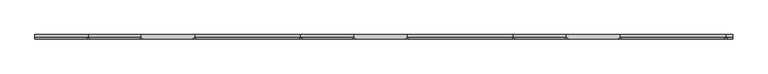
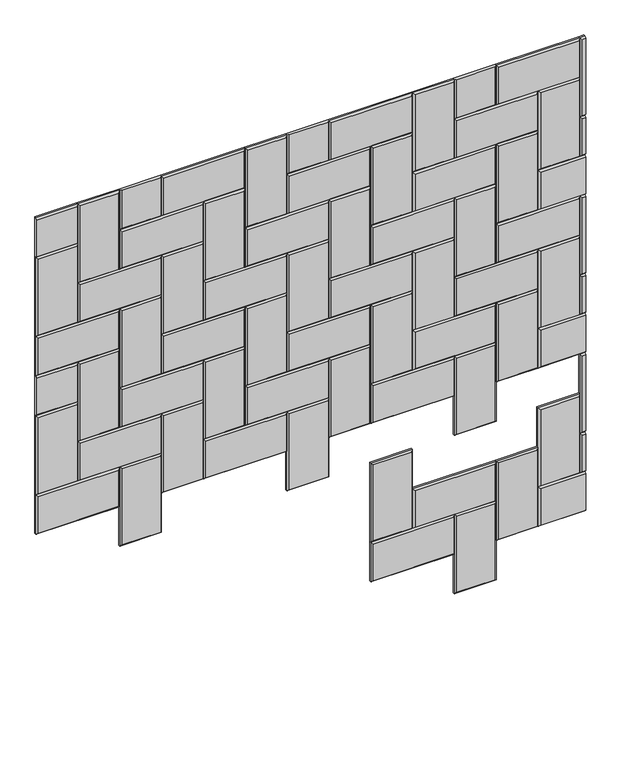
"""IFC4 building model written with IfcOpenShell, lengths in millimetres: proxy geometry, Wall_Wisteria 5.3dm."""

from ifc_helpers import new_model, si_unit, origin, place, context, project, spatial, faceted_brep, source, transform, mapped, element, save


def generic_models_fab0b521(model_context):
    return source(origin(), model_context, "Body", "Brep", [
        faceted_brep([(4813.0096042, 6.0, 2647.6), (4813.0096042, 12.0, 2647.6), (4965.4096042, 12.0, 2647.6), (4965.4096042, 6.0, 2647.6), (4959.4096042, 0.0, 2653.6), (4819.0096042, 0.0, 2653.6), (4813.0096042, 12.0, 2800.0), (4965.4096042, 12.0, 2800.0), (4965.4096042, 6.0, 2800.0), (4813.0096042, 6.0, 2800.0), (4819.0096042, 0.0, 2800.0), (4959.4096042, 0.0, 2800.0)], [[[0, 1, 2, 3]], [[0, 3, 4, 5]], [[6, 7, 2, 1]], [[8, 3, 2, 7]], [[6, 1, 0, 9]], [[10, 5, 4, 11]], [[11, 4, 3, 8]], [[9, 0, 5, 10]], [[6, 9, 10, 11, 8, 7]]]),
        faceted_brep([(5422.6096042, 6.0, 2647.6), (5422.6096042, 12.0, 2647.6), (5575.0096042, 12.0, 2647.6), (5575.0096042, 6.0, 2647.6), (5569.0096042, 0.0, 2653.6), (5428.6096042, 0.0, 2653.6), (5422.6096042, 12.0, 2800.0), (5575.0096042, 12.0, 2800.0), (5575.0096042, 6.0, 2800.0), (5422.6096042, 6.0, 2800.0), (5428.6096042, 0.0, 2800.0), (5569.0096042, 0.0, 2800.0)], [[[0, 1, 2, 3]], [[0, 3, 4, 5]], [[6, 7, 2, 1]], [[8, 3, 2, 7]], [[6, 1, 0, 9]], [[10, 5, 4, 11]], [[11, 4, 3, 8]], [[9, 0, 5, 10]], [[6, 9, 10, 11, 8, 7]]]),
        faceted_brep([(6032.2096042, 6.0, 2647.6), (6032.2096042, 12.0, 2647.6), (6184.6096042, 12.0, 2647.6), (6184.6096042, 6.0, 2647.6), (6178.6096042, 0.0, 2653.6), (6038.2096042, 0.0, 2653.6), (6032.2096042, 12.0, 2800.0), (6184.6096042, 12.0, 2800.0), (6184.6096042, 6.0, 2800.0), (6032.2096042, 6.0, 2800.0), (6038.2096042, 0.0, 2800.0), (6178.6096042, 0.0, 2800.0)], [[[0, 1, 2, 3]], [[0, 3, 4, 5]], [[6, 7, 2, 1]], [[8, 3, 2, 7]], [[6, 1, 0, 9]], [[10, 5, 4, 11]], [[11, 4, 3, 8]], [[9, 0, 5, 10]], [[6, 9, 10, 11, 8, 7]]]),
        faceted_brep([(6508.2096042, 12.0, 2342.8), (6489.4096042, 12.0, 2342.8), (6489.4096042, 12.0, 2495.2), (6508.2096042, 12.0, 2495.2), (6508.2096042, 6.0, 2495.2), (6489.4096042, 6.0, 2495.2), (6489.4096042, 6.0, 2342.8), (6508.2096042, 6.0, 2342.8), (6508.2096042, 0.0, 2348.8), (6508.2096042, 0.0, 2489.2), (6495.4096042, 0.0, 2489.2), (6495.4096042, 0.0, 2348.8)], [[[0, 1, 2, 3]], [[4, 3, 2, 5]], [[5, 2, 1, 6]], [[0, 7, 6, 1]], [[8, 9, 10, 11]], [[9, 4, 5, 10]], [[5, 6, 11, 10]], [[7, 8, 11, 6]], [[0, 3, 4, 9, 8, 7]]]),
        faceted_brep([(6337.0096042, 12.0, 2342.8), (6337.0096042, 12.0, 2647.6), (6489.4096042, 12.0, 2647.6), (6489.4096042, 12.0, 2342.8), (6337.0096042, 6.0, 2342.8), (6489.4096042, 6.0, 2342.8), (6489.4096042, 6.0, 2647.6), (6337.0096042, 6.0, 2647.6), (6483.4096042, 0.0, 2641.6), (6343.0096042, 0.0, 2641.6), (6343.0096042, 0.0, 2348.8), (6483.4096042, 0.0, 2348.8)], [[[0, 1, 2, 3]], [[4, 0, 3, 5]], [[5, 3, 2, 6]], [[6, 2, 1, 7]], [[7, 1, 0, 4]], [[8, 9, 10, 11]], [[4, 5, 11, 10]], [[5, 6, 8, 11]], [[6, 7, 9, 8]], [[7, 4, 10, 9]]]),
        faceted_brep([(6508.2096042, 12.0, 2190.4), (6337.0096042, 12.0, 2190.4), (6337.0096042, 12.0, 2342.8), (6508.2096042, 12.0, 2342.8), (6508.2096042, 6.0, 2342.8), (6337.0096042, 6.0, 2342.8), (6337.0096042, 6.0, 2190.4), (6508.2096042, 6.0, 2190.4), (6508.2096042, 0.0, 2196.4), (6508.2096042, 0.0, 2336.8), (6343.0096042, 0.0, 2336.8), (6343.0096042, 0.0, 2196.4)], [[[0, 1, 2, 3]], [[4, 3, 2, 5]], [[5, 2, 1, 6]], [[0, 7, 6, 1]], [[8, 9, 10, 11]], [[9, 4, 5, 10]], [[5, 6, 11, 10]], [[7, 8, 11, 6]], [[0, 3, 4, 9, 8, 7]]]),
        faceted_brep([(6184.6096042, 12.0, 2190.4), (6184.6096042, 12.0, 2495.2), (6337.0096042, 12.0, 2495.2), (6337.0096042, 12.0, 2190.4), (6184.6096042, 6.0, 2190.4), (6337.0096042, 6.0, 2190.4), (6337.0096042, 6.0, 2495.2), (6184.6096042, 6.0, 2495.2), (6331.0096042, 0.0, 2489.2), (6190.6096042, 0.0, 2489.2), (6190.6096042, 0.0, 2196.4), (6331.0096042, 0.0, 2196.4)], [[[0, 1, 2, 3]], [[4, 0, 3, 5]], [[5, 3, 2, 6]], [[6, 2, 1, 7]], [[7, 1, 0, 4]], [[8, 9, 10, 11]], [[4, 5, 11, 10]], [[5, 6, 8, 11]], [[6, 7, 9, 8]], [[7, 4, 10, 9]]]),
        faceted_brep([(6184.6096042, 12.0, 2342.8), (5879.8096042, 12.0, 2342.8), (5879.8096042, 12.0, 2495.2), (6184.6096042, 12.0, 2495.2), (6184.6096042, 6.0, 2342.8), (6184.6096042, 6.0, 2495.2), (5879.8096042, 6.0, 2495.2), (5879.8096042, 6.0, 2342.8), (5885.8096042, 0.0, 2489.2), (5885.8096042, 0.0, 2348.8), (6178.6096042, 0.0, 2348.8), (6178.6096042, 0.0, 2489.2)], [[[0, 1, 2, 3]], [[4, 0, 3, 5]], [[5, 3, 2, 6]], [[6, 2, 1, 7]], [[7, 1, 0, 4]], [[8, 9, 10, 11]], [[4, 5, 11, 10]], [[5, 6, 8, 11]], [[6, 7, 9, 8]], [[7, 4, 10, 9]]]),
        faceted_brep([(6032.2096042, 12.0, 2038.0), (6032.2096042, 12.0, 2342.8), (6184.6096042, 12.0, 2342.8), (6184.6096042, 12.0, 2038.0), (6032.2096042, 6.0, 2038.0), (6184.6096042, 6.0, 2038.0), (6184.6096042, 6.0, 2342.8), (6032.2096042, 6.0, 2342.8), (6178.6096042, 0.0, 2336.8), (6038.2096042, 0.0, 2336.8), (6038.2096042, 0.0, 2044.0), (6178.6096042, 0.0, 2044.0)], [[[0, 1, 2, 3]], [[4, 0, 3, 5]], [[5, 3, 2, 6]], [[6, 2, 1, 7]], [[7, 1, 0, 4]], [[8, 9, 10, 11]], [[4, 5, 11, 10]], [[5, 6, 8, 11]], [[6, 7, 9, 8]], [[7, 4, 10, 9]]]),
        faceted_brep([(5727.4096042, 12.0, 2342.8), (5727.4096042, 12.0, 2647.6), (5879.8096042, 12.0, 2647.6), (5879.8096042, 12.0, 2342.8), (5727.4096042, 6.0, 2342.8), (5879.8096042, 6.0, 2342.8), (5879.8096042, 6.0, 2647.6), (5727.4096042, 6.0, 2647.6), (5873.8096042, 0.0, 2641.6), (5733.4096042, 0.0, 2641.6), (5733.4096042, 0.0, 2348.8), (5873.8096042, 0.0, 2348.8)], [[[0, 1, 2, 3]], [[4, 0, 3, 5]], [[5, 3, 2, 6]], [[6, 2, 1, 7]], [[7, 1, 0, 4]], [[8, 9, 10, 11]], [[4, 5, 11, 10]], [[5, 6, 8, 11]], [[6, 7, 9, 8]], [[7, 4, 10, 9]]]),
        faceted_brep([(6032.2096042, 12.0, 2190.4), (5727.4096042, 12.0, 2190.4), (5727.4096042, 12.0, 2342.8), (6032.2096042, 12.0, 2342.8), (6032.2096042, 6.0, 2190.4), (6032.2096042, 6.0, 2342.8), (5727.4096042, 6.0, 2342.8), (5727.4096042, 6.0, 2190.4), (5733.4096042, 0.0, 2336.8), (5733.4096042, 0.0, 2196.4), (6026.2096042, 0.0, 2196.4), (6026.2096042, 0.0, 2336.8)], [[[0, 1, 2, 3]], [[4, 0, 3, 5]], [[5, 3, 2, 6]], [[6, 2, 1, 7]], [[7, 1, 0, 4]], [[8, 9, 10, 11]], [[4, 5, 11, 10]], [[5, 6, 8, 11]], [[6, 7, 9, 8]], [[7, 4, 10, 9]]]),
        faceted_brep([(6508.2096042, 12.0, 2495.2), (6489.4096042, 12.0, 2495.2), (6489.4096042, 12.0, 2800.0), (6508.2096042, 12.0, 2800.0), (6508.2096042, 6.0, 2495.2), (6489.4096042, 6.0, 2495.2), (6489.4096042, 6.0, 2800.0), (6508.2096042, 0.0, 2501.2), (6508.2096042, 0.0, 2794.0), (6495.4096042, 0.0, 2794.0), (6495.4096042, 0.0, 2501.2), (6508.2096042, 6.0, 2800.0)], [[[0, 1, 2, 3]], [[0, 4, 5, 1]], [[6, 2, 1, 5]], [[7, 8, 9, 10]], [[4, 7, 10, 5]], [[8, 11, 6, 9]], [[6, 5, 10, 9]], [[3, 2, 6, 11]], [[0, 3, 11, 8, 7, 4]]]),
        faceted_brep([(6489.4096042, 12.0, 2647.6), (6184.6096042, 12.0, 2647.6), (6184.6096042, 12.0, 2800.0), (6489.4096042, 12.0, 2800.0), (6489.4096042, 6.0, 2647.6), (6489.4096042, 6.0, 2800.0), (6184.6096042, 6.0, 2800.0), (6184.6096042, 6.0, 2647.6), (6190.6096042, 0.0, 2794.0), (6190.6096042, 0.0, 2653.6), (6483.4096042, 0.0, 2653.6), (6483.4096042, 0.0, 2794.0)], [[[0, 1, 2, 3]], [[4, 0, 3, 5]], [[6, 2, 1, 7]], [[7, 1, 0, 4]], [[8, 9, 10, 11]], [[4, 5, 11, 10]], [[5, 6, 8, 11]], [[6, 7, 9, 8]], [[7, 4, 10, 9]], [[3, 2, 6, 5]]]),
        faceted_brep([(6337.0096042, 12.0, 2495.2), (6032.2096042, 12.0, 2495.2), (6032.2096042, 12.0, 2647.6), (6337.0096042, 12.0, 2647.6), (6337.0096042, 6.0, 2495.2), (6337.0096042, 6.0, 2647.6), (6032.2096042, 6.0, 2647.6), (6032.2096042, 6.0, 2495.2), (6038.2096042, 0.0, 2641.6), (6038.2096042, 0.0, 2501.2), (6331.0096042, 0.0, 2501.2), (6331.0096042, 0.0, 2641.6)], [[[0, 1, 2, 3]], [[4, 0, 3, 5]], [[5, 3, 2, 6]], [[6, 2, 1, 7]], [[7, 1, 0, 4]], [[8, 9, 10, 11]], [[4, 5, 11, 10]], [[5, 6, 8, 11]], [[6, 7, 9, 8]], [[7, 4, 10, 9]]]),
        faceted_brep([(5879.8096042, 12.0, 2495.2), (5879.8096042, 12.0, 2800.0), (6032.2096042, 12.0, 2800.0), (6032.2096042, 12.0, 2495.2), (5879.8096042, 6.0, 2495.2), (6032.2096042, 6.0, 2495.2), (6032.2096042, 6.0, 2800.0), (5879.8096042, 6.0, 2800.0), (6026.2096042, 0.0, 2794.0), (5885.8096042, 0.0, 2794.0), (5885.8096042, 0.0, 2501.2), (6026.2096042, 0.0, 2501.2)], [[[0, 1, 2, 3]], [[4, 0, 3, 5]], [[5, 3, 2, 6]], [[7, 1, 0, 4]], [[8, 9, 10, 11]], [[4, 5, 11, 10]], [[5, 6, 8, 11]], [[6, 7, 9, 8]], [[7, 4, 10, 9]], [[2, 1, 7, 6]]]),
        faceted_brep([(5879.8096042, 12.0, 2647.6), (5575.0096042, 12.0, 2647.6), (5575.0096042, 12.0, 2800.0), (5879.8096042, 12.0, 2800.0), (5879.8096042, 6.0, 2647.6), (5879.8096042, 6.0, 2800.0), (5575.0096042, 6.0, 2800.0), (5575.0096042, 6.0, 2647.6), (5581.0096042, 0.0, 2794.0), (5581.0096042, 0.0, 2653.6), (5873.8096042, 0.0, 2653.6), (5873.8096042, 0.0, 2794.0)], [[[0, 1, 2, 3]], [[4, 0, 3, 5]], [[6, 2, 1, 7]], [[7, 1, 0, 4]], [[8, 9, 10, 11]], [[4, 5, 11, 10]], [[5, 6, 8, 11]], [[6, 7, 9, 8]], [[7, 4, 10, 9]], [[3, 2, 6, 5]]]),
        faceted_brep([(5727.4096042, 12.0, 2495.2), (5422.6096042, 12.0, 2495.2), (5422.6096042, 12.0, 2647.6), (5727.4096042, 12.0, 2647.6), (5727.4096042, 6.0, 2495.2), (5727.4096042, 6.0, 2647.6), (5422.6096042, 6.0, 2647.6), (5422.6096042, 6.0, 2495.2), (5428.6096042, 0.0, 2641.6), (5428.6096042, 0.0, 2501.2), (5721.4096042, 0.0, 2501.2), (5721.4096042, 0.0, 2641.6)], [[[0, 1, 2, 3]], [[4, 0, 3, 5]], [[5, 3, 2, 6]], [[6, 2, 1, 7]], [[7, 1, 0, 4]], [[8, 9, 10, 11]], [[4, 5, 11, 10]], [[5, 6, 8, 11]], [[6, 7, 9, 8]], [[7, 4, 10, 9]]]),
        faceted_brep([(4508.2096042, 12.0, 2800.0), (4660.6096042, 12.0, 2800.0), (4660.6096042, 12.0, 2647.6), (4508.2096042, 12.0, 2647.6), (4660.6096042, 6.0, 2647.6), (4660.6096042, 6.0, 2800.0), (4508.2096042, 6.0, 2647.6), (4508.2096042, 0.0, 2794.0), (4508.2096042, 0.0, 2653.6), (4654.6096042, 0.0, 2653.6), (4654.6096042, 0.0, 2794.0), (4508.2096042, 6.0, 2800.0)], [[[0, 1, 2, 3]], [[4, 2, 1, 5]], [[6, 3, 2, 4]], [[7, 8, 9, 10]], [[4, 5, 10, 9]], [[11, 7, 10, 5]], [[8, 6, 4, 9]], [[1, 0, 11, 5]], [[0, 3, 6, 8, 7, 11]]]),
        faceted_brep([(5575.0096042, 12.0, 2190.4), (5575.0096042, 12.0, 2495.2), (5727.4096042, 12.0, 2495.2), (5727.4096042, 12.0, 2190.4), (5575.0096042, 6.0, 2190.4), (5727.4096042, 6.0, 2190.4), (5727.4096042, 6.0, 2495.2), (5575.0096042, 6.0, 2495.2), (5721.4096042, 0.0, 2489.2), (5581.0096042, 0.0, 2489.2), (5581.0096042, 0.0, 2196.4), (5721.4096042, 0.0, 2196.4)], [[[0, 1, 2, 3]], [[4, 0, 3, 5]], [[5, 3, 2, 6]], [[6, 2, 1, 7]], [[7, 1, 0, 4]], [[8, 9, 10, 11]], [[4, 5, 11, 10]], [[5, 6, 8, 11]], [[6, 7, 9, 8]], [[7, 4, 10, 9]]]),
        faceted_brep([(5270.2096042, 12.0, 2495.2), (5270.2096042, 12.0, 2800.0), (5422.6096042, 12.0, 2800.0), (5422.6096042, 12.0, 2495.2), (5270.2096042, 6.0, 2495.2), (5422.6096042, 6.0, 2495.2), (5422.6096042, 6.0, 2800.0), (5270.2096042, 6.0, 2800.0), (5416.6096042, 0.0, 2794.0), (5276.2096042, 0.0, 2794.0), (5276.2096042, 0.0, 2501.2), (5416.6096042, 0.0, 2501.2)], [[[0, 1, 2, 3]], [[4, 0, 3, 5]], [[5, 3, 2, 6]], [[7, 1, 0, 4]], [[8, 9, 10, 11]], [[4, 5, 11, 10]], [[5, 6, 8, 11]], [[6, 7, 9, 8]], [[7, 4, 10, 9]], [[2, 1, 7, 6]]]),
        faceted_brep([(5575.0096042, 12.0, 2342.8), (5270.2096042, 12.0, 2342.8), (5270.2096042, 12.0, 2495.2), (5575.0096042, 12.0, 2495.2), (5575.0096042, 6.0, 2342.8), (5575.0096042, 6.0, 2495.2), (5270.2096042, 6.0, 2495.2), (5270.2096042, 6.0, 2342.8), (5276.2096042, 0.0, 2489.2), (5276.2096042, 0.0, 2348.8), (5569.0096042, 0.0, 2348.8), (5569.0096042, 0.0, 2489.2)], [[[0, 1, 2, 3]], [[4, 0, 3, 5]], [[5, 3, 2, 6]], [[6, 2, 1, 7]], [[7, 1, 0, 4]], [[8, 9, 10, 11]], [[4, 5, 11, 10]], [[5, 6, 8, 11]], [[6, 7, 9, 8]], [[7, 4, 10, 9]]]),
        faceted_brep([(5422.6096042, 12.0, 2038.0), (5422.6096042, 12.0, 2342.8), (5575.0096042, 12.0, 2342.8), (5575.0096042, 12.0, 2038.0), (5422.6096042, 6.0, 2038.0), (5575.0096042, 6.0, 2038.0), (5575.0096042, 6.0, 2342.8), (5422.6096042, 6.0, 2342.8), (5569.0096042, 0.0, 2336.8), (5428.6096042, 0.0, 2336.8), (5428.6096042, 0.0, 2044.0), (5569.0096042, 0.0, 2044.0)], [[[0, 1, 2, 3]], [[4, 0, 3, 5]], [[5, 3, 2, 6]], [[6, 2, 1, 7]], [[7, 1, 0, 4]], [[8, 9, 10, 11]], [[4, 5, 11, 10]], [[5, 6, 8, 11]], [[6, 7, 9, 8]], [[7, 4, 10, 9]]]),
        faceted_brep([(4660.6096042, 12.0, 2495.2), (4660.6096042, 12.0, 2800.0), (4813.0096042, 12.0, 2800.0), (4813.0096042, 12.0, 2495.2), (4660.6096042, 6.0, 2495.2), (4813.0096042, 6.0, 2495.2), (4813.0096042, 6.0, 2800.0), (4660.6096042, 6.0, 2800.0), (4807.0096042, 0.0, 2794.0), (4666.6096042, 0.0, 2794.0), (4666.6096042, 0.0, 2501.2), (4807.0096042, 0.0, 2501.2)], [[[0, 1, 2, 3]], [[4, 0, 3, 5]], [[5, 3, 2, 6]], [[7, 1, 0, 4]], [[8, 9, 10, 11]], [[4, 5, 11, 10]], [[5, 6, 8, 11]], [[6, 7, 9, 8]], [[7, 4, 10, 9]], [[2, 1, 7, 6]]]),
        faceted_brep([(4965.4096042, 12.0, 2342.8), (4660.6096042, 12.0, 2342.8), (4660.6096042, 12.0, 2495.2), (4965.4096042, 12.0, 2495.2), (4965.4096042, 6.0, 2342.8), (4965.4096042, 6.0, 2495.2), (4660.6096042, 6.0, 2495.2), (4660.6096042, 6.0, 2342.8), (4666.6096042, 0.0, 2489.2), (4666.6096042, 0.0, 2348.8), (4959.4096042, 0.0, 2348.8), (4959.4096042, 0.0, 2489.2)], [[[0, 1, 2, 3]], [[4, 0, 3, 5]], [[5, 3, 2, 6]], [[6, 2, 1, 7]], [[7, 1, 0, 4]], [[8, 9, 10, 11]], [[4, 5, 11, 10]], [[5, 6, 8, 11]], [[6, 7, 9, 8]], [[7, 4, 10, 9]]]),
        faceted_brep([(4813.0096042, 12.0, 2038.0), (4813.0096042, 12.0, 2342.8), (4965.4096042, 12.0, 2342.8), (4965.4096042, 12.0, 2038.0), (4813.0096042, 6.0, 2038.0), (4965.4096042, 6.0, 2038.0), (4965.4096042, 6.0, 2342.8), (4813.0096042, 6.0, 2342.8), (4959.4096042, 0.0, 2336.8), (4819.0096042, 0.0, 2336.8), (4819.0096042, 0.0, 2044.0), (4959.4096042, 0.0, 2044.0)], [[[0, 1, 2, 3]], [[4, 0, 3, 5]], [[5, 3, 2, 6]], [[6, 2, 1, 7]], [[7, 1, 0, 4]], [[8, 9, 10, 11]], [[4, 5, 11, 10]], [[5, 6, 8, 11]], [[6, 7, 9, 8]], [[7, 4, 10, 9]]]),
        faceted_brep([(4508.2096042, 12.0, 2342.8), (4508.2096042, 12.0, 2647.6), (4660.6096042, 12.0, 2647.6), (4660.6096042, 12.0, 2342.8), (4508.2096042, 6.0, 2342.8), (4660.6096042, 6.0, 2342.8), (4660.6096042, 6.0, 2647.6), (4508.2096042, 6.0, 2647.6), (4654.6096042, 0.0, 2641.6), (4514.2096042, 0.0, 2641.6), (4514.2096042, 0.0, 2348.8), (4654.6096042, 0.0, 2348.8)], [[[0, 1, 2, 3]], [[4, 0, 3, 5]], [[5, 3, 2, 6]], [[6, 2, 1, 7]], [[8, 9, 10, 11]], [[4, 5, 11, 10]], [[5, 6, 8, 11]], [[6, 7, 9, 8]], [[7, 4, 10, 9]], [[1, 0, 4, 7]]]),
        faceted_brep([(4813.0096042, 12.0, 2190.4), (4508.2096042, 12.0, 2190.4), (4508.2096042, 12.0, 2342.8), (4813.0096042, 12.0, 2342.8), (4813.0096042, 6.0, 2190.4), (4813.0096042, 6.0, 2342.8), (4508.2096042, 6.0, 2342.8), (4508.2096042, 6.0, 2190.4), (4514.2096042, 0.0, 2336.8), (4514.2096042, 0.0, 2196.4), (4807.0096042, 0.0, 2196.4), (4807.0096042, 0.0, 2336.8)], [[[0, 1, 2, 3]], [[4, 0, 3, 5]], [[5, 3, 2, 6]], [[7, 1, 0, 4]], [[8, 9, 10, 11]], [[4, 5, 11, 10]], [[5, 6, 8, 11]], [[6, 7, 9, 8]], [[7, 4, 10, 9]], [[2, 1, 7, 6]]]),
        faceted_brep([(5270.2096042, 12.0, 2647.6), (4965.4096042, 12.0, 2647.6), (4965.4096042, 12.0, 2800.0), (5270.2096042, 12.0, 2800.0), (5270.2096042, 6.0, 2647.6), (5270.2096042, 6.0, 2800.0), (4965.4096042, 6.0, 2800.0), (4965.4096042, 6.0, 2647.6), (4971.4096042, 0.0, 2794.0), (4971.4096042, 0.0, 2653.6), (5264.2096042, 0.0, 2653.6), (5264.2096042, 0.0, 2794.0)], [[[0, 1, 2, 3]], [[4, 0, 3, 5]], [[6, 2, 1, 7]], [[7, 1, 0, 4]], [[8, 9, 10, 11]], [[4, 5, 11, 10]], [[5, 6, 8, 11]], [[6, 7, 9, 8]], [[7, 4, 10, 9]], [[3, 2, 6, 5]]]),
        faceted_brep([(5117.8096042, 12.0, 2342.8), (5117.8096042, 12.0, 2647.6), (5270.2096042, 12.0, 2647.6), (5270.2096042, 12.0, 2342.8), (5117.8096042, 6.0, 2342.8), (5270.2096042, 6.0, 2342.8), (5270.2096042, 6.0, 2647.6), (5117.8096042, 6.0, 2647.6), (5264.2096042, 0.0, 2641.6), (5123.8096042, 0.0, 2641.6), (5123.8096042, 0.0, 2348.8), (5264.2096042, 0.0, 2348.8)], [[[0, 1, 2, 3]], [[4, 0, 3, 5]], [[5, 3, 2, 6]], [[6, 2, 1, 7]], [[7, 1, 0, 4]], [[8, 9, 10, 11]], [[4, 5, 11, 10]], [[5, 6, 8, 11]], [[6, 7, 9, 8]], [[7, 4, 10, 9]]]),
        faceted_brep([(5422.6096042, 12.0, 2190.4), (5117.8096042, 12.0, 2190.4), (5117.8096042, 12.0, 2342.8), (5422.6096042, 12.0, 2342.8), (5422.6096042, 6.0, 2190.4), (5422.6096042, 6.0, 2342.8), (5117.8096042, 6.0, 2342.8), (5117.8096042, 6.0, 2190.4), (5123.8096042, 0.0, 2336.8), (5123.8096042, 0.0, 2196.4), (5416.6096042, 0.0, 2196.4), (5416.6096042, 0.0, 2336.8)], [[[0, 1, 2, 3]], [[4, 0, 3, 5]], [[5, 3, 2, 6]], [[6, 2, 1, 7]], [[7, 1, 0, 4]], [[8, 9, 10, 11]], [[4, 5, 11, 10]], [[5, 6, 8, 11]], [[6, 7, 9, 8]], [[7, 4, 10, 9]]]),
        faceted_brep([(5117.8096042, 12.0, 2495.2), (4813.0096042, 12.0, 2495.2), (4813.0096042, 12.0, 2647.6), (5117.8096042, 12.0, 2647.6), (5117.8096042, 6.0, 2495.2), (5117.8096042, 6.0, 2647.6), (4813.0096042, 6.0, 2647.6), (4813.0096042, 6.0, 2495.2), (4819.0096042, 0.0, 2641.6), (4819.0096042, 0.0, 2501.2), (5111.8096042, 0.0, 2501.2), (5111.8096042, 0.0, 2641.6)], [[[0, 1, 2, 3]], [[4, 0, 3, 5]], [[5, 3, 2, 6]], [[6, 2, 1, 7]], [[7, 1, 0, 4]], [[8, 9, 10, 11]], [[4, 5, 11, 10]], [[5, 6, 8, 11]], [[6, 7, 9, 8]], [[7, 4, 10, 9]]]),
        faceted_brep([(4965.4096042, 12.0, 2190.4), (4965.4096042, 12.0, 2495.2), (5117.8096042, 12.0, 2495.2), (5117.8096042, 12.0, 2190.4), (4965.4096042, 6.0, 2190.4), (5117.8096042, 6.0, 2190.4), (5117.8096042, 6.0, 2495.2), (4965.4096042, 6.0, 2495.2), (5111.8096042, 0.0, 2489.2), (4971.4096042, 0.0, 2489.2), (4971.4096042, 0.0, 2196.4), (5111.8096042, 0.0, 2196.4)], [[[0, 1, 2, 3]], [[4, 0, 3, 5]], [[5, 3, 2, 6]], [[6, 2, 1, 7]], [[7, 1, 0, 4]], [[8, 9, 10, 11]], [[4, 5, 11, 10]], [[5, 6, 8, 11]], [[6, 7, 9, 8]], [[7, 4, 10, 9]]]),
        faceted_brep([(6508.2096042, 12.0, 1733.2), (6489.4096042, 12.0, 1733.2), (6489.4096042, 12.0, 1885.6), (6508.2096042, 12.0, 1885.6), (6508.2096042, 6.0, 1885.6), (6489.4096042, 6.0, 1885.6), (6489.4096042, 6.0, 1733.2), (6508.2096042, 6.0, 1733.2), (6508.2096042, 0.0, 1739.2), (6508.2096042, 0.0, 1879.6), (6495.4096042, 0.0, 1879.6), (6495.4096042, 0.0, 1739.2)], [[[0, 1, 2, 3]], [[4, 3, 2, 5]], [[5, 2, 1, 6]], [[0, 7, 6, 1]], [[8, 9, 10, 11]], [[9, 4, 5, 10]], [[5, 6, 11, 10]], [[7, 8, 11, 6]], [[0, 3, 4, 9, 8, 7]]]),
        faceted_brep([(6337.0096042, 12.0, 1733.2), (6337.0096042, 12.0, 2038.0), (6489.4096042, 12.0, 2038.0), (6489.4096042, 12.0, 1733.2), (6337.0096042, 6.0, 1733.2), (6489.4096042, 6.0, 1733.2), (6489.4096042, 6.0, 2038.0), (6337.0096042, 6.0, 2038.0), (6483.4096042, 0.0, 2032.0), (6343.0096042, 0.0, 2032.0), (6343.0096042, 0.0, 1739.2), (6483.4096042, 0.0, 1739.2)], [[[0, 1, 2, 3]], [[4, 0, 3, 5]], [[5, 3, 2, 6]], [[6, 2, 1, 7]], [[7, 1, 0, 4]], [[8, 9, 10, 11]], [[4, 5, 11, 10]], [[5, 6, 8, 11]], [[6, 7, 9, 8]], [[7, 4, 10, 9]]]),
        faceted_brep([(6508.2096042, 12.0, 1580.8), (6337.0096042, 12.0, 1580.8), (6337.0096042, 12.0, 1733.2), (6508.2096042, 12.0, 1733.2), (6508.2096042, 6.0, 1733.2), (6337.0096042, 6.0, 1733.2), (6337.0096042, 6.0, 1580.8), (6508.2096042, 6.0, 1580.8), (6508.2096042, 0.0, 1586.8), (6508.2096042, 0.0, 1727.2), (6343.0096042, 0.0, 1727.2), (6343.0096042, 0.0, 1586.8)], [[[0, 1, 2, 3]], [[4, 3, 2, 5]], [[5, 2, 1, 6]], [[0, 7, 6, 1]], [[8, 9, 10, 11]], [[9, 4, 5, 10]], [[5, 6, 11, 10]], [[7, 8, 11, 6]], [[0, 3, 4, 9, 8, 7]]]),
        faceted_brep([(6184.6096042, 12.0, 1580.8), (6184.6096042, 12.0, 1885.6), (6337.0096042, 12.0, 1885.6), (6337.0096042, 12.0, 1580.8), (6184.6096042, 6.0, 1580.8), (6337.0096042, 6.0, 1580.8), (6337.0096042, 6.0, 1885.6), (6184.6096042, 6.0, 1885.6), (6331.0096042, 0.0, 1879.6), (6190.6096042, 0.0, 1879.6), (6190.6096042, 0.0, 1586.8), (6331.0096042, 0.0, 1586.8)], [[[0, 1, 2, 3]], [[4, 0, 3, 5]], [[5, 3, 2, 6]], [[6, 2, 1, 7]], [[7, 1, 0, 4]], [[8, 9, 10, 11]], [[4, 5, 11, 10]], [[5, 6, 8, 11]], [[6, 7, 9, 8]], [[7, 4, 10, 9]]]),
        faceted_brep([(6184.6096042, 12.0, 1733.2), (5879.8096042, 12.0, 1733.2), (5879.8096042, 12.0, 1885.6), (6184.6096042, 12.0, 1885.6), (6184.6096042, 6.0, 1733.2), (6184.6096042, 6.0, 1885.6), (5879.8096042, 6.0, 1885.6), (5879.8096042, 6.0, 1733.2), (5885.8096042, 0.0, 1879.6), (5885.8096042, 0.0, 1739.2), (6178.6096042, 0.0, 1739.2), (6178.6096042, 0.0, 1879.6)], [[[0, 1, 2, 3]], [[4, 0, 3, 5]], [[5, 3, 2, 6]], [[6, 2, 1, 7]], [[7, 1, 0, 4]], [[8, 9, 10, 11]], [[4, 5, 11, 10]], [[5, 6, 8, 11]], [[6, 7, 9, 8]], [[7, 4, 10, 9]]]),
        faceted_brep([(6032.2096042, 12.0, 1428.4), (6032.2096042, 12.0, 1733.2), (6184.6096042, 12.0, 1733.2), (6184.6096042, 12.0, 1428.4), (6032.2096042, 6.0, 1428.4), (6184.6096042, 6.0, 1428.4), (6184.6096042, 6.0, 1733.2), (6032.2096042, 6.0, 1733.2), (6178.6096042, 0.0, 1727.2), (6038.2096042, 0.0, 1727.2), (6038.2096042, 0.0, 1434.4), (6178.6096042, 0.0, 1434.4)], [[[0, 1, 2, 3]], [[4, 0, 3, 5]], [[5, 3, 2, 6]], [[6, 2, 1, 7]], [[7, 1, 0, 4]], [[8, 9, 10, 11]], [[4, 5, 11, 10]], [[5, 6, 8, 11]], [[6, 7, 9, 8]], [[7, 4, 10, 9]]]),
        faceted_brep([(5727.4096042, 12.0, 1733.2), (5727.4096042, 12.0, 2038.0), (5879.8096042, 12.0, 2038.0), (5879.8096042, 12.0, 1733.2), (5727.4096042, 6.0, 1733.2), (5879.8096042, 6.0, 1733.2), (5879.8096042, 6.0, 2038.0), (5727.4096042, 6.0, 2038.0), (5873.8096042, 0.0, 2032.0), (5733.4096042, 0.0, 2032.0), (5733.4096042, 0.0, 1739.2), (5873.8096042, 0.0, 1739.2)], [[[0, 1, 2, 3]], [[4, 0, 3, 5]], [[5, 3, 2, 6]], [[6, 2, 1, 7]], [[7, 1, 0, 4]], [[8, 9, 10, 11]], [[4, 5, 11, 10]], [[5, 6, 8, 11]], [[6, 7, 9, 8]], [[7, 4, 10, 9]]]),
        faceted_brep([(6032.2096042, 12.0, 1580.8), (5727.4096042, 12.0, 1580.8), (5727.4096042, 12.0, 1733.2), (6032.2096042, 12.0, 1733.2), (6032.2096042, 6.0, 1580.8), (6032.2096042, 6.0, 1733.2), (5727.4096042, 6.0, 1733.2), (5727.4096042, 6.0, 1580.8), (5733.4096042, 0.0, 1727.2), (5733.4096042, 0.0, 1586.8), (6026.2096042, 0.0, 1586.8), (6026.2096042, 0.0, 1727.2)], [[[0, 1, 2, 3]], [[4, 0, 3, 5]], [[5, 3, 2, 6]], [[6, 2, 1, 7]], [[7, 1, 0, 4]], [[8, 9, 10, 11]], [[4, 5, 11, 10]], [[5, 6, 8, 11]], [[6, 7, 9, 8]], [[7, 4, 10, 9]]]),
        faceted_brep([(6508.2096042, 12.0, 1885.6), (6489.4096042, 12.0, 1885.6), (6489.4096042, 12.0, 2190.4), (6508.2096042, 12.0, 2190.4), (6508.2096042, 6.0, 1885.6), (6489.4096042, 6.0, 1885.6), (6508.2096042, 6.0, 2190.4), (6489.4096042, 6.0, 2190.4), (6508.2096042, 0.0, 1891.6), (6508.2096042, 0.0, 2184.4), (6495.4096042, 0.0, 2184.4), (6495.4096042, 0.0, 1891.6)], [[[0, 1, 2, 3]], [[0, 4, 5, 1]], [[6, 3, 2, 7]], [[7, 2, 1, 5]], [[8, 9, 10, 11]], [[4, 8, 11, 5]], [[9, 6, 7, 10]], [[7, 5, 11, 10]], [[0, 3, 6, 9, 8, 4]]]),
        faceted_brep([(6489.4096042, 12.0, 2038.0), (6184.6096042, 12.0, 2038.0), (6184.6096042, 12.0, 2190.4), (6489.4096042, 12.0, 2190.4), (6489.4096042, 6.0, 2038.0), (6489.4096042, 6.0, 2190.4), (6184.6096042, 6.0, 2190.4), (6184.6096042, 6.0, 2038.0), (6190.6096042, 0.0, 2184.4), (6190.6096042, 0.0, 2044.0), (6483.4096042, 0.0, 2044.0), (6483.4096042, 0.0, 2184.4)], [[[0, 1, 2, 3]], [[4, 0, 3, 5]], [[5, 3, 2, 6]], [[6, 2, 1, 7]], [[7, 1, 0, 4]], [[8, 9, 10, 11]], [[4, 5, 11, 10]], [[5, 6, 8, 11]], [[6, 7, 9, 8]], [[7, 4, 10, 9]]]),
        faceted_brep([(6337.0096042, 12.0, 1885.6), (6032.2096042, 12.0, 1885.6), (6032.2096042, 12.0, 2038.0), (6337.0096042, 12.0, 2038.0), (6337.0096042, 6.0, 1885.6), (6337.0096042, 6.0, 2038.0), (6032.2096042, 6.0, 2038.0), (6032.2096042, 6.0, 1885.6), (6038.2096042, 0.0, 2032.0), (6038.2096042, 0.0, 1891.6), (6331.0096042, 0.0, 1891.6), (6331.0096042, 0.0, 2032.0)], [[[0, 1, 2, 3]], [[4, 0, 3, 5]], [[5, 3, 2, 6]], [[6, 2, 1, 7]], [[7, 1, 0, 4]], [[8, 9, 10, 11]], [[4, 5, 11, 10]], [[5, 6, 8, 11]], [[6, 7, 9, 8]], [[7, 4, 10, 9]]]),
        faceted_brep([(5879.8096042, 12.0, 1885.6), (5879.8096042, 12.0, 2190.4), (6032.2096042, 12.0, 2190.4), (6032.2096042, 12.0, 1885.6), (5879.8096042, 6.0, 1885.6), (6032.2096042, 6.0, 1885.6), (6032.2096042, 6.0, 2190.4), (5879.8096042, 6.0, 2190.4), (6026.2096042, 0.0, 2184.4), (5885.8096042, 0.0, 2184.4), (5885.8096042, 0.0, 1891.6), (6026.2096042, 0.0, 1891.6)], [[[0, 1, 2, 3]], [[4, 0, 3, 5]], [[5, 3, 2, 6]], [[6, 2, 1, 7]], [[7, 1, 0, 4]], [[8, 9, 10, 11]], [[4, 5, 11, 10]], [[5, 6, 8, 11]], [[6, 7, 9, 8]], [[7, 4, 10, 9]]]),
        faceted_brep([(5879.8096042, 12.0, 2038.0), (5575.0096042, 12.0, 2038.0), (5575.0096042, 12.0, 2190.4), (5879.8096042, 12.0, 2190.4), (5879.8096042, 6.0, 2038.0), (5879.8096042, 6.0, 2190.4), (5575.0096042, 6.0, 2190.4), (5575.0096042, 6.0, 2038.0), (5581.0096042, 0.0, 2184.4), (5581.0096042, 0.0, 2044.0), (5873.8096042, 0.0, 2044.0), (5873.8096042, 0.0, 2184.4)], [[[0, 1, 2, 3]], [[4, 0, 3, 5]], [[5, 3, 2, 6]], [[6, 2, 1, 7]], [[7, 1, 0, 4]], [[8, 9, 10, 11]], [[4, 5, 11, 10]], [[5, 6, 8, 11]], [[6, 7, 9, 8]], [[7, 4, 10, 9]]]),
        faceted_brep([(5727.4096042, 12.0, 1885.6), (5422.6096042, 12.0, 1885.6), (5422.6096042, 12.0, 2038.0), (5727.4096042, 12.0, 2038.0), (5727.4096042, 6.0, 1885.6), (5727.4096042, 6.0, 2038.0), (5422.6096042, 6.0, 2038.0), (5422.6096042, 6.0, 1885.6), (5428.6096042, 0.0, 2032.0), (5428.6096042, 0.0, 1891.6), (5721.4096042, 0.0, 1891.6), (5721.4096042, 0.0, 2032.0)], [[[0, 1, 2, 3]], [[4, 0, 3, 5]], [[5, 3, 2, 6]], [[6, 2, 1, 7]], [[7, 1, 0, 4]], [[8, 9, 10, 11]], [[4, 5, 11, 10]], [[5, 6, 8, 11]], [[6, 7, 9, 8]], [[7, 4, 10, 9]]]),
        faceted_brep([(4508.2096042, 12.0, 2190.4), (4660.6096042, 12.0, 2190.4), (4660.6096042, 12.0, 2038.0), (4508.2096042, 12.0, 2038.0), (4660.6096042, 6.0, 2038.0), (4660.6096042, 6.0, 2190.4), (4508.2096042, 6.0, 2190.4), (4508.2096042, 6.0, 2038.0), (4508.2096042, 0.0, 2184.4), (4508.2096042, 0.0, 2044.0), (4654.6096042, 0.0, 2044.0), (4654.6096042, 0.0, 2184.4)], [[[0, 1, 2, 3]], [[4, 2, 1, 5]], [[0, 6, 5, 1]], [[7, 3, 2, 4]], [[8, 9, 10, 11]], [[4, 5, 11, 10]], [[6, 8, 11, 5]], [[9, 7, 4, 10]], [[0, 3, 7, 9, 8, 6]]]),
        faceted_brep([(5575.0096042, 12.0, 1580.8), (5575.0096042, 12.0, 1885.6), (5727.4096042, 12.0, 1885.6), (5727.4096042, 12.0, 1580.8), (5575.0096042, 6.0, 1580.8), (5727.4096042, 6.0, 1580.8), (5727.4096042, 6.0, 1885.6), (5575.0096042, 6.0, 1885.6), (5721.4096042, 0.0, 1879.6), (5581.0096042, 0.0, 1879.6), (5581.0096042, 0.0, 1586.8), (5721.4096042, 0.0, 1586.8)], [[[0, 1, 2, 3]], [[4, 0, 3, 5]], [[5, 3, 2, 6]], [[6, 2, 1, 7]], [[7, 1, 0, 4]], [[8, 9, 10, 11]], [[4, 5, 11, 10]], [[5, 6, 8, 11]], [[6, 7, 9, 8]], [[7, 4, 10, 9]]]),
        faceted_brep([(5270.2096042, 12.0, 1885.6), (5270.2096042, 12.0, 2190.4), (5422.6096042, 12.0, 2190.4), (5422.6096042, 12.0, 1885.6), (5270.2096042, 6.0, 1885.6), (5422.6096042, 6.0, 1885.6), (5422.6096042, 6.0, 2190.4), (5270.2096042, 6.0, 2190.4), (5416.6096042, 0.0, 2184.4), (5276.2096042, 0.0, 2184.4), (5276.2096042, 0.0, 1891.6), (5416.6096042, 0.0, 1891.6)], [[[0, 1, 2, 3]], [[4, 0, 3, 5]], [[5, 3, 2, 6]], [[6, 2, 1, 7]], [[7, 1, 0, 4]], [[8, 9, 10, 11]], [[4, 5, 11, 10]], [[5, 6, 8, 11]], [[6, 7, 9, 8]], [[7, 4, 10, 9]]]),
        faceted_brep([(5575.0096042, 12.0, 1733.2), (5270.2096042, 12.0, 1733.2), (5270.2096042, 12.0, 1885.6), (5575.0096042, 12.0, 1885.6), (5575.0096042, 6.0, 1733.2), (5575.0096042, 6.0, 1885.6), (5270.2096042, 6.0, 1885.6), (5270.2096042, 6.0, 1733.2), (5276.2096042, 0.0, 1879.6), (5276.2096042, 0.0, 1739.2), (5569.0096042, 0.0, 1739.2), (5569.0096042, 0.0, 1879.6)], [[[0, 1, 2, 3]], [[4, 0, 3, 5]], [[5, 3, 2, 6]], [[6, 2, 1, 7]], [[7, 1, 0, 4]], [[8, 9, 10, 11]], [[4, 5, 11, 10]], [[5, 6, 8, 11]], [[6, 7, 9, 8]], [[7, 4, 10, 9]]]),
        faceted_brep([(5422.6096042, 12.0, 1428.4), (5422.6096042, 12.0, 1733.2), (5575.0096042, 12.0, 1733.2), (5575.0096042, 12.0, 1428.4), (5422.6096042, 6.0, 1428.4), (5575.0096042, 6.0, 1428.4), (5575.0096042, 6.0, 1733.2), (5422.6096042, 6.0, 1733.2), (5569.0096042, 0.0, 1727.2), (5428.6096042, 0.0, 1727.2), (5428.6096042, 0.0, 1434.4), (5569.0096042, 0.0, 1434.4)], [[[0, 1, 2, 3]], [[4, 0, 3, 5]], [[5, 3, 2, 6]], [[6, 2, 1, 7]], [[7, 1, 0, 4]], [[8, 9, 10, 11]], [[4, 5, 11, 10]], [[5, 6, 8, 11]], [[6, 7, 9, 8]], [[7, 4, 10, 9]]]),
        faceted_brep([(4660.6096042, 12.0, 1885.6), (4660.6096042, 12.0, 2190.4), (4813.0096042, 12.0, 2190.4), (4813.0096042, 12.0, 1885.6), (4660.6096042, 6.0, 1885.6), (4813.0096042, 6.0, 1885.6), (4813.0096042, 6.0, 2190.4), (4660.6096042, 6.0, 2190.4), (4807.0096042, 0.0, 2184.4), (4666.6096042, 0.0, 2184.4), (4666.6096042, 0.0, 1891.6), (4807.0096042, 0.0, 1891.6)], [[[0, 1, 2, 3]], [[4, 0, 3, 5]], [[5, 3, 2, 6]], [[6, 2, 1, 7]], [[7, 1, 0, 4]], [[8, 9, 10, 11]], [[4, 5, 11, 10]], [[5, 6, 8, 11]], [[6, 7, 9, 8]], [[7, 4, 10, 9]]]),
        faceted_brep([(4965.4096042, 12.0, 1733.2), (4660.6096042, 12.0, 1733.2), (4660.6096042, 12.0, 1885.6), (4965.4096042, 12.0, 1885.6), (4965.4096042, 6.0, 1733.2), (4965.4096042, 6.0, 1885.6), (4660.6096042, 6.0, 1885.6), (4660.6096042, 6.0, 1733.2), (4666.6096042, 0.0, 1879.6), (4666.6096042, 0.0, 1739.2), (4959.4096042, 0.0, 1739.2), (4959.4096042, 0.0, 1879.6)], [[[0, 1, 2, 3]], [[4, 0, 3, 5]], [[5, 3, 2, 6]], [[6, 2, 1, 7]], [[7, 1, 0, 4]], [[8, 9, 10, 11]], [[4, 5, 11, 10]], [[5, 6, 8, 11]], [[6, 7, 9, 8]], [[7, 4, 10, 9]]]),
        faceted_brep([(4813.0096042, 12.0, 1428.4), (4813.0096042, 12.0, 1733.2), (4965.4096042, 12.0, 1733.2), (4965.4096042, 12.0, 1428.4), (4813.0096042, 6.0, 1428.4), (4965.4096042, 6.0, 1428.4), (4965.4096042, 6.0, 1733.2), (4813.0096042, 6.0, 1733.2), (4959.4096042, 0.0, 1727.2), (4819.0096042, 0.0, 1727.2), (4819.0096042, 0.0, 1434.4), (4959.4096042, 0.0, 1434.4)], [[[0, 1, 2, 3]], [[4, 0, 3, 5]], [[5, 3, 2, 6]], [[6, 2, 1, 7]], [[7, 1, 0, 4]], [[8, 9, 10, 11]], [[4, 5, 11, 10]], [[5, 6, 8, 11]], [[6, 7, 9, 8]], [[7, 4, 10, 9]]]),
        faceted_brep([(4508.2096042, 12.0, 1733.2), (4508.2096042, 12.0, 2038.0), (4660.6096042, 12.0, 2038.0), (4660.6096042, 12.0, 1733.2), (4508.2096042, 6.0, 1733.2), (4660.6096042, 6.0, 1733.2), (4660.6096042, 6.0, 2038.0), (4508.2096042, 6.0, 2038.0), (4654.6096042, 0.0, 2032.0), (4514.2096042, 0.0, 2032.0), (4514.2096042, 0.0, 1739.2), (4654.6096042, 0.0, 1739.2)], [[[0, 1, 2, 3]], [[4, 0, 3, 5]], [[5, 3, 2, 6]], [[6, 2, 1, 7]], [[8, 9, 10, 11]], [[4, 5, 11, 10]], [[5, 6, 8, 11]], [[6, 7, 9, 8]], [[7, 4, 10, 9]], [[1, 0, 4, 7]]]),
        faceted_brep([(4813.0096042, 12.0, 1580.8), (4508.2096042, 12.0, 1580.8), (4508.2096042, 12.0, 1733.2), (4813.0096042, 12.0, 1733.2), (4813.0096042, 6.0, 1580.8), (4813.0096042, 6.0, 1733.2), (4508.2096042, 6.0, 1733.2), (4508.2096042, 6.0, 1580.8), (4514.2096042, 0.0, 1727.2), (4514.2096042, 0.0, 1586.8), (4807.0096042, 0.0, 1586.8), (4807.0096042, 0.0, 1727.2)], [[[0, 1, 2, 3]], [[4, 0, 3, 5]], [[5, 3, 2, 6]], [[7, 1, 0, 4]], [[8, 9, 10, 11]], [[4, 5, 11, 10]], [[5, 6, 8, 11]], [[6, 7, 9, 8]], [[7, 4, 10, 9]], [[2, 1, 7, 6]]]),
        faceted_brep([(5270.2096042, 12.0, 2038.0), (4965.4096042, 12.0, 2038.0), (4965.4096042, 12.0, 2190.4), (5270.2096042, 12.0, 2190.4), (5270.2096042, 6.0, 2038.0), (5270.2096042, 6.0, 2190.4), (4965.4096042, 6.0, 2190.4), (4965.4096042, 6.0, 2038.0), (4971.4096042, 0.0, 2184.4), (4971.4096042, 0.0, 2044.0), (5264.2096042, 0.0, 2044.0), (5264.2096042, 0.0, 2184.4)], [[[0, 1, 2, 3]], [[4, 0, 3, 5]], [[5, 3, 2, 6]], [[6, 2, 1, 7]], [[7, 1, 0, 4]], [[8, 9, 10, 11]], [[4, 5, 11, 10]], [[5, 6, 8, 11]], [[6, 7, 9, 8]], [[7, 4, 10, 9]]]),
        faceted_brep([(5117.8096042, 12.0, 1733.2), (5117.8096042, 12.0, 2038.0), (5270.2096042, 12.0, 2038.0), (5270.2096042, 12.0, 1733.2), (5117.8096042, 6.0, 1733.2), (5270.2096042, 6.0, 1733.2), (5270.2096042, 6.0, 2038.0), (5117.8096042, 6.0, 2038.0), (5264.2096042, 0.0, 2032.0), (5123.8096042, 0.0, 2032.0), (5123.8096042, 0.0, 1739.2), (5264.2096042, 0.0, 1739.2)], [[[0, 1, 2, 3]], [[4, 0, 3, 5]], [[5, 3, 2, 6]], [[6, 2, 1, 7]], [[7, 1, 0, 4]], [[8, 9, 10, 11]], [[4, 5, 11, 10]], [[5, 6, 8, 11]], [[6, 7, 9, 8]], [[7, 4, 10, 9]]]),
        faceted_brep([(5422.6096042, 12.0, 1580.8), (5117.8096042, 12.0, 1580.8), (5117.8096042, 12.0, 1733.2), (5422.6096042, 12.0, 1733.2), (5422.6096042, 6.0, 1580.8), (5422.6096042, 6.0, 1733.2), (5117.8096042, 6.0, 1733.2), (5117.8096042, 6.0, 1580.8), (5123.8096042, 0.0, 1727.2), (5123.8096042, 0.0, 1586.8), (5416.6096042, 0.0, 1586.8), (5416.6096042, 0.0, 1727.2)], [[[0, 1, 2, 3]], [[4, 0, 3, 5]], [[5, 3, 2, 6]], [[6, 2, 1, 7]], [[7, 1, 0, 4]], [[8, 9, 10, 11]], [[4, 5, 11, 10]], [[5, 6, 8, 11]], [[6, 7, 9, 8]], [[7, 4, 10, 9]]]),
        faceted_brep([(5117.8096042, 12.0, 1885.6), (4813.0096042, 12.0, 1885.6), (4813.0096042, 12.0, 2038.0), (5117.8096042, 12.0, 2038.0), (5117.8096042, 6.0, 1885.6), (5117.8096042, 6.0, 2038.0), (4813.0096042, 6.0, 2038.0), (4813.0096042, 6.0, 1885.6), (4819.0096042, 0.0, 2032.0), (4819.0096042, 0.0, 1891.6), (5111.8096042, 0.0, 1891.6), (5111.8096042, 0.0, 2032.0)], [[[0, 1, 2, 3]], [[4, 0, 3, 5]], [[5, 3, 2, 6]], [[6, 2, 1, 7]], [[7, 1, 0, 4]], [[8, 9, 10, 11]], [[4, 5, 11, 10]], [[5, 6, 8, 11]], [[6, 7, 9, 8]], [[7, 4, 10, 9]]]),
        faceted_brep([(4965.4096042, 12.0, 1580.8), (4965.4096042, 12.0, 1885.6), (5117.8096042, 12.0, 1885.6), (5117.8096042, 12.0, 1580.8), (4965.4096042, 6.0, 1580.8), (5117.8096042, 6.0, 1580.8), (5117.8096042, 6.0, 1885.6), (4965.4096042, 6.0, 1885.6), (5111.8096042, 0.0, 1879.6), (4971.4096042, 0.0, 1879.6), (4971.4096042, 0.0, 1586.8), (5111.8096042, 0.0, 1586.8)], [[[0, 1, 2, 3]], [[4, 0, 3, 5]], [[5, 3, 2, 6]], [[6, 2, 1, 7]], [[7, 1, 0, 4]], [[8, 9, 10, 11]], [[4, 5, 11, 10]], [[5, 6, 8, 11]], [[6, 7, 9, 8]], [[7, 4, 10, 9]]]),
        faceted_brep([(6508.2096042, 12.0, 1123.6), (6489.4096042, 12.0, 1123.6), (6489.4096042, 12.0, 1276.0), (6508.2096042, 12.0, 1276.0), (6508.2096042, 6.0, 1276.0), (6489.4096042, 6.0, 1276.0), (6489.4096042, 6.0, 1123.6), (6508.2096042, 6.0, 1123.6), (6508.2096042, 0.0, 1129.6), (6508.2096042, 0.0, 1270.0), (6495.4096042, 0.0, 1270.0), (6495.4096042, 0.0, 1129.6)], [[[0, 1, 2, 3]], [[4, 3, 2, 5]], [[5, 2, 1, 6]], [[0, 7, 6, 1]], [[8, 9, 10, 11]], [[9, 4, 5, 10]], [[5, 6, 11, 10]], [[7, 8, 11, 6]], [[0, 3, 4, 9, 8, 7]]]),
        faceted_brep([(6337.0096042, 12.0, 1123.6), (6337.0096042, 12.0, 1428.4), (6489.4096042, 12.0, 1428.4), (6489.4096042, 12.0, 1123.6), (6337.0096042, 6.0, 1123.6), (6489.4096042, 6.0, 1123.6), (6489.4096042, 6.0, 1428.4), (6337.0096042, 6.0, 1428.4), (6483.4096042, 0.0, 1422.4), (6343.0096042, 0.0, 1422.4), (6343.0096042, 0.0, 1129.6), (6483.4096042, 0.0, 1129.6)], [[[0, 1, 2, 3]], [[4, 0, 3, 5]], [[5, 3, 2, 6]], [[6, 2, 1, 7]], [[7, 1, 0, 4]], [[8, 9, 10, 11]], [[4, 5, 11, 10]], [[5, 6, 8, 11]], [[6, 7, 9, 8]], [[7, 4, 10, 9]]]),
        faceted_brep([(6508.2096042, 12.0, 971.2), (6337.0096042, 12.0, 971.2), (6337.0096042, 12.0, 1123.6), (6508.2096042, 12.0, 1123.6), (6508.2096042, 6.0, 1123.6), (6337.0096042, 6.0, 1123.6), (6337.0096042, 6.0, 971.2), (6508.2096042, 6.0, 971.2), (6508.2096042, 0.0, 977.2), (6508.2096042, 0.0, 1117.6), (6343.0096042, 0.0, 1117.6), (6343.0096042, 0.0, 977.2)], [[[0, 1, 2, 3]], [[4, 3, 2, 5]], [[5, 2, 1, 6]], [[0, 7, 6, 1]], [[8, 9, 10, 11]], [[9, 4, 5, 10]], [[5, 6, 11, 10]], [[7, 8, 11, 6]], [[0, 3, 4, 9, 8, 7]]]),
        faceted_brep([(6184.6096042, 12.0, 971.2), (6184.6096042, 12.0, 1276.0), (6337.0096042, 12.0, 1276.0), (6337.0096042, 12.0, 971.2), (6184.6096042, 6.0, 971.2), (6337.0096042, 6.0, 971.2), (6337.0096042, 6.0, 1276.0), (6184.6096042, 6.0, 1276.0), (6331.0096042, 0.0, 1270.0), (6190.6096042, 0.0, 1270.0), (6190.6096042, 0.0, 977.2), (6331.0096042, 0.0, 977.2)], [[[0, 1, 2, 3]], [[4, 0, 3, 5]], [[5, 3, 2, 6]], [[6, 2, 1, 7]], [[7, 1, 0, 4]], [[8, 9, 10, 11]], [[4, 5, 11, 10]], [[5, 6, 8, 11]], [[6, 7, 9, 8]], [[7, 4, 10, 9]]]),
        faceted_brep([(6184.6096042, 12.0, 1123.6), (5879.8096042, 12.0, 1123.6), (5879.8096042, 12.0, 1276.0), (6184.6096042, 12.0, 1276.0), (6184.6096042, 6.0, 1123.6), (6184.6096042, 6.0, 1276.0), (5879.8096042, 6.0, 1276.0), (5879.8096042, 6.0, 1123.6), (5885.8096042, 0.0, 1270.0), (5885.8096042, 0.0, 1129.6), (6178.6096042, 0.0, 1129.6), (6178.6096042, 0.0, 1270.0)], [[[0, 1, 2, 3]], [[4, 0, 3, 5]], [[5, 3, 2, 6]], [[6, 2, 1, 7]], [[7, 1, 0, 4]], [[8, 9, 10, 11]], [[4, 5, 11, 10]], [[5, 6, 8, 11]], [[6, 7, 9, 8]], [[7, 4, 10, 9]]]),
        faceted_brep([(6032.2096042, 12.0, 818.8), (6032.2096042, 12.0, 1123.6), (6184.6096042, 12.0, 1123.6), (6184.6096042, 12.0, 818.8), (6032.2096042, 6.0, 818.8), (6184.6096042, 6.0, 818.8), (6184.6096042, 6.0, 1123.6), (6032.2096042, 6.0, 1123.6), (6178.6096042, 0.0, 1117.6), (6038.2096042, 0.0, 1117.6), (6038.2096042, 0.0, 824.8), (6178.6096042, 0.0, 824.8)], [[[0, 1, 2, 3]], [[4, 0, 3, 5]], [[5, 3, 2, 6]], [[6, 2, 1, 7]], [[7, 1, 0, 4]], [[8, 9, 10, 11]], [[4, 5, 11, 10]], [[5, 6, 8, 11]], [[6, 7, 9, 8]], [[7, 4, 10, 9]]]),
        faceted_brep([(5727.4096042, 12.0, 1123.6), (5727.4096042, 12.0, 1428.4), (5879.8096042, 12.0, 1428.4), (5879.8096042, 12.0, 1123.6), (5727.4096042, 6.0, 1123.6), (5879.8096042, 6.0, 1123.6), (5879.8096042, 6.0, 1428.4), (5727.4096042, 6.0, 1428.4), (5873.8096042, 0.0, 1422.4), (5733.4096042, 0.0, 1422.4), (5733.4096042, 0.0, 1129.6), (5873.8096042, 0.0, 1129.6)], [[[0, 1, 2, 3]], [[4, 0, 3, 5]], [[5, 3, 2, 6]], [[6, 2, 1, 7]], [[7, 1, 0, 4]], [[8, 9, 10, 11]], [[4, 5, 11, 10]], [[5, 6, 8, 11]], [[6, 7, 9, 8]], [[7, 4, 10, 9]]]),
        faceted_brep([(6032.2096042, 12.0, 971.2), (5727.4096042, 12.0, 971.2), (5727.4096042, 12.0, 1123.6), (6032.2096042, 12.0, 1123.6), (6032.2096042, 6.0, 971.2), (6032.2096042, 6.0, 1123.6), (5727.4096042, 6.0, 1123.6), (5727.4096042, 6.0, 971.2), (5733.4096042, 0.0, 1117.6), (5733.4096042, 0.0, 977.2), (6026.2096042, 0.0, 977.2), (6026.2096042, 0.0, 1117.6)], [[[0, 1, 2, 3]], [[4, 0, 3, 5]], [[5, 3, 2, 6]], [[6, 2, 1, 7]], [[7, 1, 0, 4]], [[8, 9, 10, 11]], [[4, 5, 11, 10]], [[5, 6, 8, 11]], [[6, 7, 9, 8]], [[7, 4, 10, 9]]]),
        faceted_brep([(6508.2096042, 12.0, 1276.0), (6489.4096042, 12.0, 1276.0), (6489.4096042, 12.0, 1580.8), (6508.2096042, 12.0, 1580.8), (6508.2096042, 6.0, 1276.0), (6489.4096042, 6.0, 1276.0), (6508.2096042, 6.0, 1580.8), (6489.4096042, 6.0, 1580.8), (6508.2096042, 0.0, 1282.0), (6508.2096042, 0.0, 1574.8), (6495.4096042, 0.0, 1574.8), (6495.4096042, 0.0, 1282.0)], [[[0, 1, 2, 3]], [[0, 4, 5, 1]], [[6, 3, 2, 7]], [[7, 2, 1, 5]], [[8, 9, 10, 11]], [[4, 8, 11, 5]], [[9, 6, 7, 10]], [[7, 5, 11, 10]], [[0, 3, 6, 9, 8, 4]]]),
    ])


if __name__ == "__main__":
    model = new_model("IFC4")
    model_context = context("Model", 3, world=origin())
    ifc_project = project(units=[si_unit("LENGTHUNIT", "METRE", prefix="MILLI")], contexts=[model_context])
    site = spatial("IfcSite", under=ifc_project)
    building = spatial("IfcBuilding", under=site)
    placement = place(None, origin())
    generic_models_shape = generic_models_fab0b521(model_context)
    element("IfcBuildingElementProxy", 1, Name="Wall_Wisteria 5.3dm", ObjectType="Wall_Wisteria 5.3dm", at=placement, inside=building, context=model_context, shape_type="MappedRepresentation", body=[
        mapped(generic_models_shape, transform((0.0, 0.0, 0.0), x_axis=(1.0, 0.0, 0.0), y_axis=(0.0, 1.0, 0.0), z_axis=(0.0, 0.0, 1.0))),
    ])
    save(model, "model.ifc")
